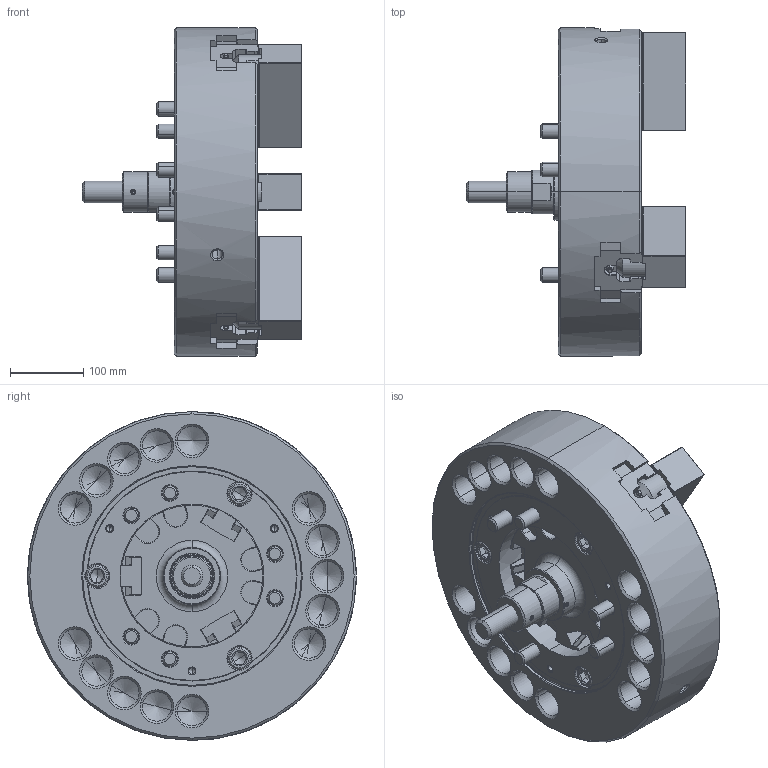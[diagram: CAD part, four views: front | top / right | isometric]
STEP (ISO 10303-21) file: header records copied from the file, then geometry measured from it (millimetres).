
FILE_DESCRIPTION (( 'STEP AP214' ), '1' );
FILE_NAME ('DT1_NL18_OUTSIDE_VIEW_HCL.STEP', '2026-03-22T23:27:08', ( '' ), ( '' ), 'SwSTEP 2.0', 'SolidWorks 2022', '' );
FILE_SCHEMA (( 'AUTOMOTIVE_DESIGN' ));
Length unit declared in the file: millimetre
Products named in the file (11): DT1_NL18_M20x55^DT1_NL18; DT1_NL18_DRAWSCREW^DT1_NL18; DT1_NL18_M6x12^DT1_NL18; DT1_NL18_COVER^DT1_NL18; DT1_NL18_M20x115^DT1_NL18; DT1_NL18_DN^DT1_NL18; Copy of 61P321208^DT1_NL18; DT1_NL18_BASE^DT1_NL18; DT1_NL18_SOFTJAW^DT1_NL18; DT1_NL18_OUTSIDE_VIEW_HCL; DT1_NL18_TNUT^DT1_NL18
Assembly tree (29 placements, depth 2):
  DT1_NL18_OUTSIDE_VIEW_HCL
    DT1_NL18_SOFTJAW^DT1_NL18  x3
    DT1_NL18_TNUT^DT1_NL18  x6
    DT1_NL18_COVER^DT1_NL18
    DT1_NL18_DRAWSCREW^DT1_NL18
    Copy of 61P321208^DT1_NL18
    DT1_NL18_M6x12^DT1_NL18  x3
    DT1_NL18_M20x115^DT1_NL18  x6
    DT1_NL18_M20x55^DT1_NL18  x6
    DT1_NL18_DN^DT1_NL18
    DT1_NL18_BASE^DT1_NL18
Bounding box: 301 x 450 x 450 mm (x, y, z)
Volume: 16738218.5 mm3; surface area: 1255110.1 mm2
Topology: 29 solids, 35 shells, 7249 faces, 20530 edges, 13457 vertices
Faces by surface type: plane 5112, cylinder 930, bspline 611, cone 517, torus 79
Entity records: 208705 total; most frequent: CARTESIAN_POINT 67142, ORIENTED_EDGE 32284, DIRECTION 24720, EDGE_CURVE 16142, LINE 12090, VECTOR 12090, VERTEX_POINT 10623, AXIS2_PLACEMENT_3D 6315
